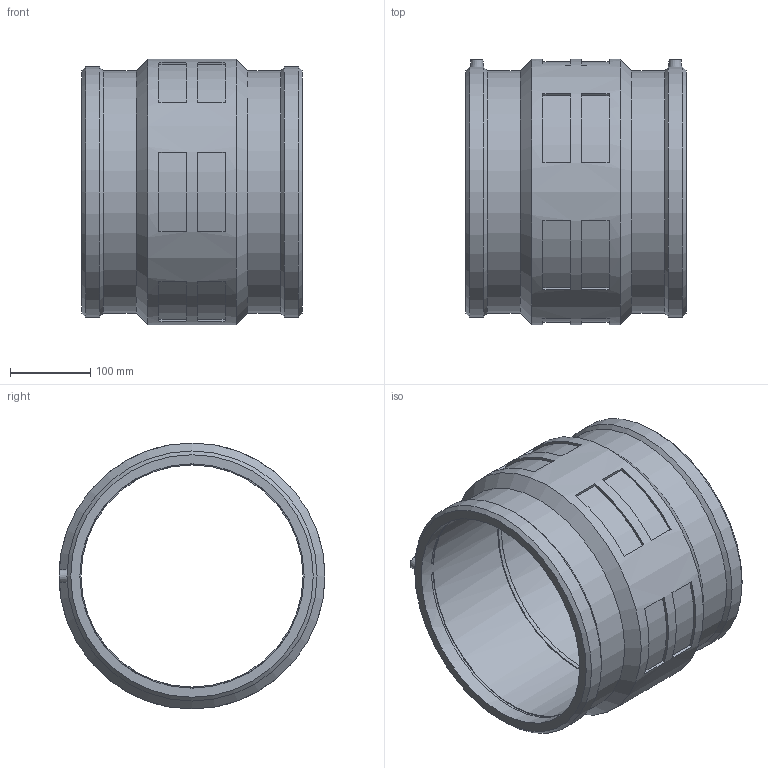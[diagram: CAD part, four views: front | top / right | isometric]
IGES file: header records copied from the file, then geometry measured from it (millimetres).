
Global section: file name: 460104280.ipt; native system: Autodesk Inventor 2015; preprocessor: unknown; author: KIM; date: 20171106.093422; units: millimetre
Bounding box: 275 x 332 x 332 mm (x, y, z)
Volume: 4745296.9 mm3; surface area: 572436.5 mm2
Topology: 1 solids, 1 shells, 98 faces, 238 edges, 158 vertices
Faces by surface type: plane 60, cylinder 19, cone 12, revolution 7
Full cylindrical faces by diameter (mm): 4 x2, 302.718 x2, 312.08 x2, 332 x1
